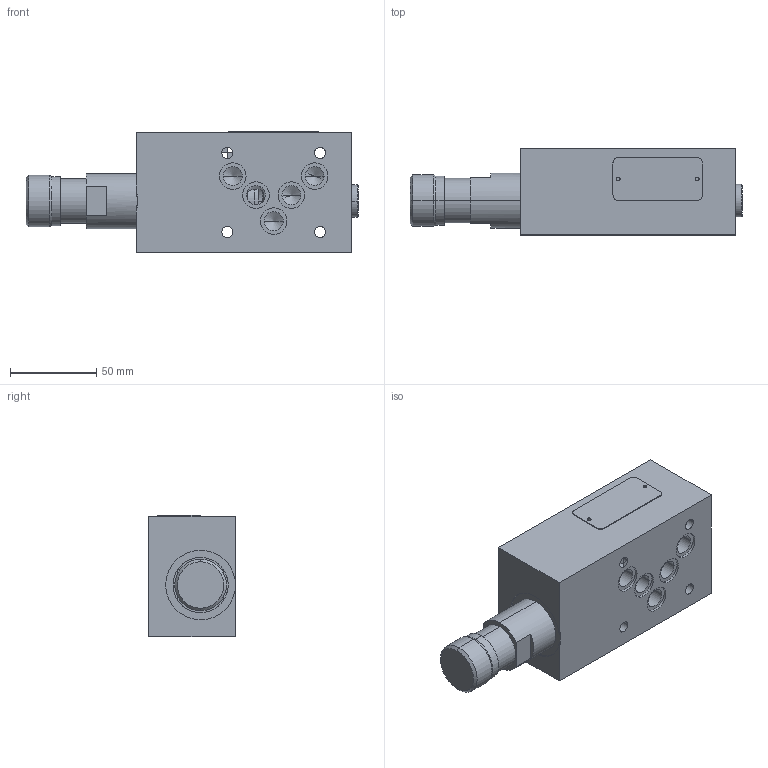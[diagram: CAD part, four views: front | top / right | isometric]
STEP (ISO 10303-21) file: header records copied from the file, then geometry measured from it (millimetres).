
FILE_DESCRIPTION((''),'2;1');
FILE_NAME('VRN2_10_MA_21R_229133_ASM','2018-10-16T',('l.soukupova'),(''),'PRO/ENGINEER BY PARAMETRIC TECHNOLOGY CORPORATION, 2015440','PRO/ENGINEER BY PARAMETRIC TECHNOLOGY CORPORATION, 2015440','');
FILE_SCHEMA(('AUTOMOTIVE_DESIGN { 1 0 10303 214 1 1 1 1 }'));
Length unit declared in the file: millimetre
Products named in the file (5): IMP_VRN2_10_MA; VRN2_10_S_R; VSTI_1_4_ED_154763; RA_LABEL_25X52; VRN2_10_MA_21R_229133_ASM
Assembly tree (4 placements, depth 2):
  VRN2_10_MA_21R_229133_ASM
    IMP_VRN2_10_MA
    VRN2_10_S_R
    VSTI_1_4_ED_154763
    RA_LABEL_25X52
Bounding box: 193 x 50 x 70.5 mm (x, y, z)
Volume: 454491.3 mm3; surface area: 72526.2 mm2
Topology: 4 solids, 10 shells, 240 faces, 894 edges, 732 vertices
Faces by surface type: cylinder 115, cone 61, plane 58, torus 6
Entity records: 12946 total; most frequent: DIRECTION 1731, CARTESIAN_POINT 1721, ORIENTED_EDGE 1022, PRESENTATION_STYLE_ASSIGNMENT 995, STYLED_ITEM 942, CURVE_STYLE 933, AXIS2_PLACEMENT_3D 583, VECTOR 565
